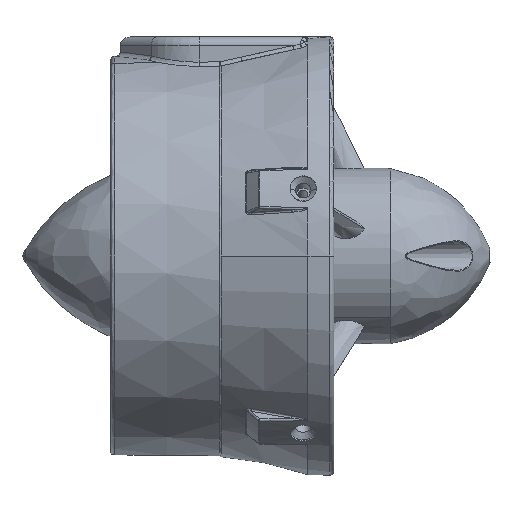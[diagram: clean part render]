
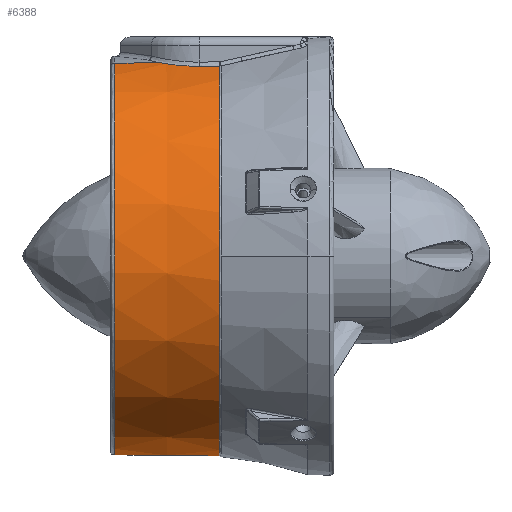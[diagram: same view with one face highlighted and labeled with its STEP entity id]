
A CAD part, left-side view. The second image highlights one B-rep face of the part: STEP entity #6388.
In plain terms, the highlighted conical face has half-angle 0.5 degrees and reference radius 45.75 mm.
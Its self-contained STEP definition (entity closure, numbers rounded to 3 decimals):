
#711 = AXIS2_PLACEMENT_3D ( 'NONE', #6881, #11293, #26849 ) ;
#3151 = VERTEX_POINT ( 'NONE', #34006 ) ;
#4403 = EDGE_CURVE ( 'NONE', #9373, #42336, #14670, .T. ) ;
#4854 = EDGE_CURVE ( 'NONE', #48674, #25410, #57876, .T. ) ;
#6388 = ADVANCED_FACE ( 'NONE', ( #48495 ), #28824, .T. ) ;
#6881 = CARTESIAN_POINT ( 'NONE',  ( 85.849, 131.645, 49.158 ) ) ;
#8178 = DIRECTION ( 'NONE',  ( 0.002, -1., -0.008 ) ) ;
#9373 = VERTEX_POINT ( 'NONE', #63867 ) ;
#11140 = B_SPLINE_CURVE_WITH_KNOTS ( 'NONE', 3,
 ( #33835, #27432, #64653, #49428, #22720, #18314 ),
 .UNSPECIFIED., .F., .F.,
 ( 4, 2, 4 ),
 ( 0., 0.435, 1. ),
 .UNSPECIFIED. ) ;
#11293 = DIRECTION ( 'NONE',  ( 0., -1., 0. ) ) ;
#11413 = AXIS2_PLACEMENT_3D ( 'NONE', #19079, #25153, #13999 ) ;
#11645 = VECTOR ( 'NONE', #8178, 1000. ) ;
#11972 = VERTEX_POINT ( 'NONE', #52677 ) ;
#12195 = EDGE_CURVE ( 'NONE', #11972, #3151, #65290, .T. ) ;
#13954 = VECTOR ( 'NONE', #58077, 1000. ) ;
#13999 = DIRECTION ( 'NONE',  ( -0.259, 0., 0.966 ) ) ;
#14670 = CIRCLE ( 'NONE', #11413, 45.54 ) ;
#15623 = EDGE_LOOP ( 'NONE', ( #22623, #27858, #21232, #59338, #61849, #27288 ) ) ;
#18047 = AXIS2_PLACEMENT_3D ( 'NONE', #22264, #42890, #53381 ) ;
#18314 = CARTESIAN_POINT ( 'NONE',  ( 71.17, 136.442, 92.445 ) ) ;
#19079 = CARTESIAN_POINT ( 'NONE',  ( 85.849, 155.654, 49.158 ) ) ;
#21232 = ORIENTED_EDGE ( 'NONE', *, *, #4854, .T. ) ;
#22264 = CARTESIAN_POINT ( 'NONE',  ( 85.849, 131.846, 49.158 ) ) ;
#22623 = ORIENTED_EDGE ( 'NONE', *, *, #4403, .T. ) ;
#22720 = CARTESIAN_POINT ( 'NONE',  ( 71.17, 135.577, 92.453 ) ) ;
#23430 = CARTESIAN_POINT ( 'NONE',  ( 97.69, 131.846, 4.969 ) ) ;
#24086 = CARTESIAN_POINT ( 'NONE',  ( 97.69, 131.645, 4.967 ) ) ;
#24510 = CARTESIAN_POINT ( 'NONE',  ( 72.026, 141.477, 92.68 ) ) ;
#24852 = CARTESIAN_POINT ( 'NONE',  ( 71.414, 139.589, 92.501 ) ) ;
#25153 = DIRECTION ( 'NONE',  ( 0., -1., 0. ) ) ;
#25410 = VERTEX_POINT ( 'NONE', #30095 ) ;
#25950 = EDGE_CURVE ( 'NONE', #9373, #3151, #63132, .T. ) ;
#26849 = DIRECTION ( 'NONE',  ( -0.259, 0., 0.966 ) ) ;
#27288 = ORIENTED_EDGE ( 'NONE', *, *, #25950, .F. ) ;
#27432 = CARTESIAN_POINT ( 'NONE',  ( 71.17, 132.513, 92.481 ) ) ;
#27472 = CARTESIAN_POINT ( 'NONE',  ( 97.636, 155.654, 5.17 ) ) ;
#27858 = ORIENTED_EDGE ( 'NONE', *, *, #37115, .T. ) ;
#28824 = CONICAL_SURFACE ( 'NONE', #711, 45.75, 0.009 ) ;
#30050 = EDGE_CURVE ( 'NONE', #25410, #11972, #11140, .T. ) ;
#30095 = CARTESIAN_POINT ( 'NONE',  ( 71.17, 131.846, 92.488 ) ) ;
#30241 = CARTESIAN_POINT ( 'NONE',  ( 72.728, 143.142, 92.882 ) ) ;
#33835 = CARTESIAN_POINT ( 'NONE',  ( 71.17, 131.846, 92.488 ) ) ;
#34006 = CARTESIAN_POINT ( 'NONE',  ( 74.039, 145.337, 93.234 ) ) ;
#35638 = CARTESIAN_POINT ( 'NONE',  ( 74.039, 145.337, 93.234 ) ) ;
#37115 = EDGE_CURVE ( 'NONE', #42336, #48674, #49124, .T. ) ;
#40387 = CARTESIAN_POINT ( 'NONE',  ( 72.474, 142.596, 92.81 ) ) ;
#40714 = CARTESIAN_POINT ( 'NONE',  ( 71.171, 138.037, 92.431 ) ) ;
#41056 = CARTESIAN_POINT ( 'NONE',  ( 73.185, 144.014, 93.009 ) ) ;
#41377 = CARTESIAN_POINT ( 'NONE',  ( 71.17, 136.442, 92.445 ) ) ;
#42336 = VERTEX_POINT ( 'NONE', #27472 ) ;
#42829 = CARTESIAN_POINT ( 'NONE',  ( 74.008, 131.645, 93.349 ) ) ;
#42890 = DIRECTION ( 'NONE',  ( 0., 1., 0. ) ) ;
#45143 = CARTESIAN_POINT ( 'NONE',  ( 73.49, 144.519, 93.091 ) ) ;
#45474 = CARTESIAN_POINT ( 'NONE',  ( 73.812, 145.014, 93.176 ) ) ;
#48495 = FACE_OUTER_BOUND ( 'NONE', #15623, .T. ) ;
#48674 = VERTEX_POINT ( 'NONE', #23430 ) ;
#49124 = LINE ( 'NONE', #24086, #11645 ) ;
#49428 = CARTESIAN_POINT ( 'NONE',  ( 71.17, 134.712, 92.461 ) ) ;
#50213 = CARTESIAN_POINT ( 'NONE',  ( 72.994, 143.67, 92.956 ) ) ;
#50550 = CARTESIAN_POINT ( 'NONE',  ( 72.164, 141.852, 92.72 ) ) ;
#52677 = CARTESIAN_POINT ( 'NONE',  ( 71.17, 136.442, 92.445 ) ) ;
#53381 = DIRECTION ( 'NONE',  ( 0.259, 0., -0.966 ) ) ;
#57876 = CIRCLE ( 'NONE', #18047, 45.748 ) ;
#58077 = DIRECTION ( 'NONE',  ( -0.002, -1., 0.008 ) ) ;
#59338 = ORIENTED_EDGE ( 'NONE', *, *, #30050, .T. ) ;
#61044 = CARTESIAN_POINT ( 'NONE',  ( 72.394, 142.41, 92.787 ) ) ;
#61383 = CARTESIAN_POINT ( 'NONE',  ( 73.595, 144.685, 93.119 ) ) ;
#61849 = ORIENTED_EDGE ( 'NONE', *, *, #12195, .T. ) ;
#62026 = CARTESIAN_POINT ( 'NONE',  ( 72.643, 142.966, 92.858 ) ) ;
#63132 = LINE ( 'NONE', #42829, #13954 ) ;
#63867 = CARTESIAN_POINT ( 'NONE',  ( 74.063, 155.654, 93.147 ) ) ;
#64653 = CARTESIAN_POINT ( 'NONE',  ( 71.17, 133.18, 92.475 ) ) ;
#65290 = B_SPLINE_CURVE_WITH_KNOTS ( 'NONE', 3,
 ( #41377, #40714, #24852, #24510, #50550, #61044, #40387, #62026, #30241, #50213, #41056, #45143, #61383, #45474, #66123, #35638 ),
 .UNSPECIFIED., .F., .F.,
 ( 4, 2, 2, 2, 2, 2, 2, 4 ),
 ( 0., 0.357, 0.446, 0.49, 0.535, 0.624, 0.669, 0.713 ),
 .UNSPECIFIED. ) ;
#66123 = CARTESIAN_POINT ( 'NONE',  ( 73.923, 145.175, 93.204 ) ) ;
